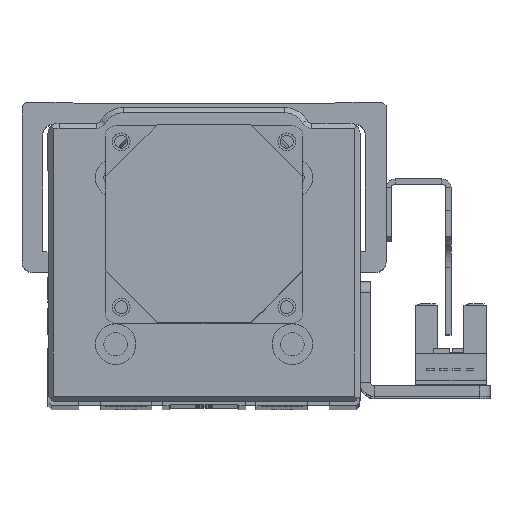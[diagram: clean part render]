
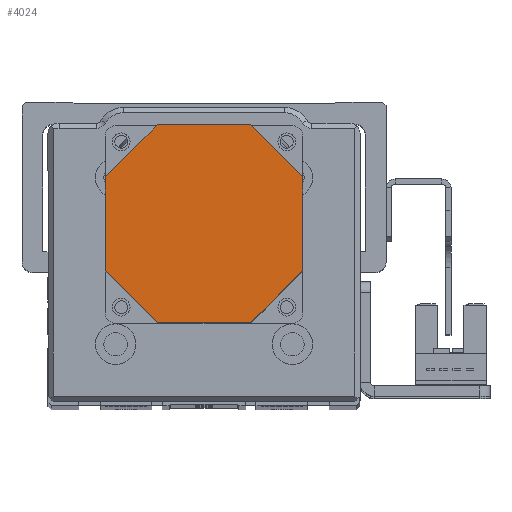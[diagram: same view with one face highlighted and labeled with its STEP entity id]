
A CAD part, top view. The second image highlights one B-rep face of the part: STEP entity #4024.
In plain terms, the highlighted planar face has unit normal (0, 0, 1) as drawn and (0, 0, -1) by its records, which use the part's own axes.
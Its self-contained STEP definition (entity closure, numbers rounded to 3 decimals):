
#2890 = EDGE_CURVE ( 'NONE', #13239, #13214, #26583, .T. ) ;
#2893 = EDGE_CURVE ( 'NONE', #13260, #13191, #26545, .T. ) ;
#2913 = EDGE_CURVE ( 'NONE', #13222, #13213, #26578, .T. ) ;
#2923 = EDGE_CURVE ( 'NONE', #13213, #13260, #26547, .T. ) ;
#2937 = EDGE_CURVE ( 'NONE', #13191, #13235, #26637, .T. ) ;
#3670 = PLANE ( 'NONE',  #18440 ) ;
#3695 = CARTESIAN_POINT ( 'NONE',  ( 0., 0., -84. ) ) ;
#3696 = DIRECTION ( 'NONE',  ( 0., 0., 1. ) ) ;
#3697 = DIRECTION ( 'NONE',  ( 1., 0., 0. ) ) ;
#4024 = ADVANCED_FACE ( 'NONE', ( #17411 ), #3670, .F. ) ;
#4507 = CARTESIAN_POINT ( 'NONE',  ( 19., -9., -84. ) ) ;
#4508 = DIRECTION ( 'NONE',  ( -0.707, -0.707, 0. ) ) ;
#4509 = DIRECTION ( 'NONE',  ( 1., 0., 0. ) ) ;
#4513 = CARTESIAN_POINT ( 'NONE',  ( 9., 19., -84. ) ) ;
#4548 = DIRECTION ( 'NONE',  ( 0., 1., 0. ) ) ;
#4560 = CARTESIAN_POINT ( 'NONE',  ( -19., 9., -84. ) ) ;
#4592 = CARTESIAN_POINT ( 'NONE',  ( -9., 19., -84. ) ) ;
#4593 = DIRECTION ( 'NONE',  ( 0.707, 0.707, 0. ) ) ;
#4635 = DIRECTION ( 'NONE',  ( 0.707, -0.707, 0. ) ) ;
#4637 = CARTESIAN_POINT ( 'NONE',  ( 19., 9., -84. ) ) ;
#10482 = EDGE_LOOP ( 'NONE', ( #26351, #26359, #26332, #26380, #26317, #26368, #26401, #26387 ) ) ;
#13191 = VERTEX_POINT ( 'NONE', #14420 ) ;
#13213 = VERTEX_POINT ( 'NONE', #14526 ) ;
#13214 = VERTEX_POINT ( 'NONE', #14510 ) ;
#13222 = VERTEX_POINT ( 'NONE', #14524 ) ;
#13235 = VERTEX_POINT ( 'NONE', #14530 ) ;
#13239 = VERTEX_POINT ( 'NONE', #14523 ) ;
#13240 = VERTEX_POINT ( 'NONE', #14537 ) ;
#13260 = VERTEX_POINT ( 'NONE', #14514 ) ;
#14420 = CARTESIAN_POINT ( 'NONE',  ( 9., 19., -84. ) ) ;
#14510 = CARTESIAN_POINT ( 'NONE',  ( 9., -19., -84. ) ) ;
#14514 = CARTESIAN_POINT ( 'NONE',  ( -9., 19., -84. ) ) ;
#14523 = CARTESIAN_POINT ( 'NONE',  ( 19., -9., -84. ) ) ;
#14524 = CARTESIAN_POINT ( 'NONE',  ( -19., -9., -84. ) ) ;
#14526 = CARTESIAN_POINT ( 'NONE',  ( -19., 9., -84. ) ) ;
#14530 = CARTESIAN_POINT ( 'NONE',  ( 19., 9., -84. ) ) ;
#14537 = CARTESIAN_POINT ( 'NONE',  ( -9., -19., -84. ) ) ;
#14619 = CARTESIAN_POINT ( 'NONE',  ( 9., -19., -84. ) ) ;
#14632 = DIRECTION ( 'NONE',  ( -1., 0., 0. ) ) ;
#14696 = DIRECTION ( 'NONE',  ( 0., -1., 0. ) ) ;
#14719 = DIRECTION ( 'NONE',  ( -0.707, 0.707, 0. ) ) ;
#14722 = CARTESIAN_POINT ( 'NONE',  ( -9., -19., -84. ) ) ;
#14724 = CARTESIAN_POINT ( 'NONE',  ( 19., 9., -84. ) ) ;
#17411 = FACE_OUTER_BOUND ( 'NONE', #10482, .T. ) ;
#17838 = LINE ( 'NONE', #14619, #17844 ) ;
#17844 = VECTOR ( 'NONE', #14632, 1000. ) ;
#17845 = VECTOR ( 'NONE', #14719, 1000. ) ;
#17852 = VECTOR ( 'NONE', #14696, 1000. ) ;
#17858 = LINE ( 'NONE', #14724, #17852 ) ;
#17900 = LINE ( 'NONE', #14722, #17845 ) ;
#18440 = AXIS2_PLACEMENT_3D ( 'NONE', #3695, #3696, #3697 ) ;
#18872 = EDGE_CURVE ( 'NONE', #13214, #13240, #17838, .T. ) ;
#18946 = EDGE_CURVE ( 'NONE', #13240, #13222, #17900, .T. ) ;
#18952 = EDGE_CURVE ( 'NONE', #13235, #13239, #17858, .T. ) ;
#26317 = ORIENTED_EDGE ( 'NONE', *, *, #2937, .T. ) ;
#26332 = ORIENTED_EDGE ( 'NONE', *, *, #2923, .T. ) ;
#26351 = ORIENTED_EDGE ( 'NONE', *, *, #18946, .T. ) ;
#26359 = ORIENTED_EDGE ( 'NONE', *, *, #2913, .T. ) ;
#26368 = ORIENTED_EDGE ( 'NONE', *, *, #18952, .T. ) ;
#26380 = ORIENTED_EDGE ( 'NONE', *, *, #2893, .T. ) ;
#26387 = ORIENTED_EDGE ( 'NONE', *, *, #18872, .T. ) ;
#26401 = ORIENTED_EDGE ( 'NONE', *, *, #2890, .T. ) ;
#26545 = LINE ( 'NONE', #4513, #26585 ) ;
#26546 = VECTOR ( 'NONE', #4548, 1000. ) ;
#26547 = LINE ( 'NONE', #4592, #26571 ) ;
#26552 = VECTOR ( 'NONE', #4508, 1000. ) ;
#26571 = VECTOR ( 'NONE', #4593, 1000. ) ;
#26578 = LINE ( 'NONE', #4560, #26546 ) ;
#26583 = LINE ( 'NONE', #4507, #26552 ) ;
#26585 = VECTOR ( 'NONE', #4509, 1000. ) ;
#26631 = VECTOR ( 'NONE', #4635, 1000. ) ;
#26637 = LINE ( 'NONE', #4637, #26631 ) ;
